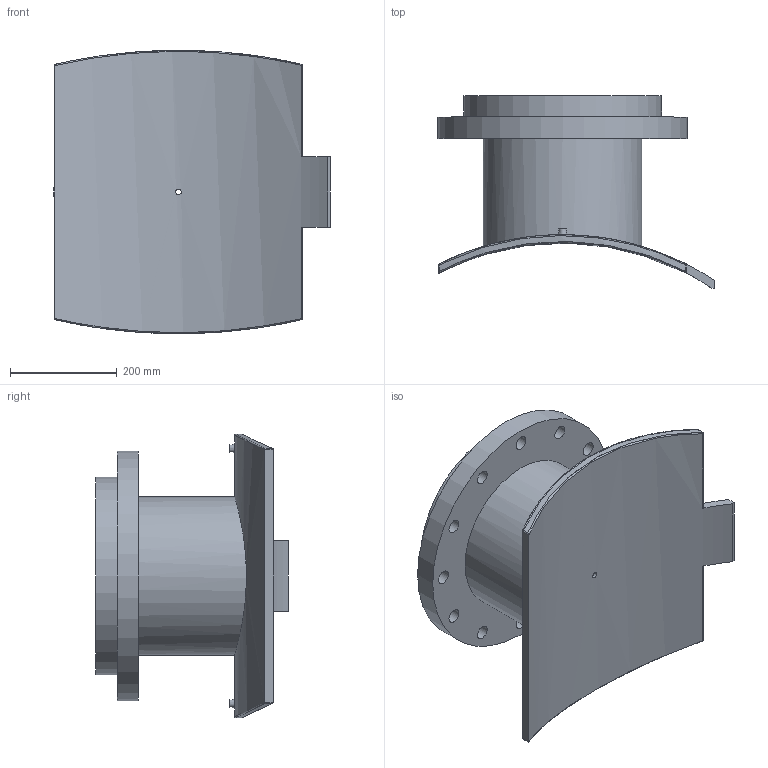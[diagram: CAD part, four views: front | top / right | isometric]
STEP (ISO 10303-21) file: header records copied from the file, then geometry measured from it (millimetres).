
FILE_DESCRIPTION(/* description */ ('PLASSON FLANGED BRANCH SADDLE 1000X300'),/* implementation_level */ '2;1');
FILE_NAME(/* name */ 'C:\Dropbox\KIMPROJECTS-Inventor 2019\99-16-3568-Processing\ElectroFusion Fittings\495904_495903\stp\4959031000300T.stp',/* time_stamp */ '2024-04-03T21:05:33+02:00',/* author */ ('KIM'),/* organization */ (''),/* preprocessor_version */ 'ST-DEVELOPER v17.2',/* originating_system */ 'Autodesk Inventor 2019',/* authorisation */ '');
FILE_SCHEMA (('AUTOMOTIVE_DESIGN { 1 0 10303 214 3 1 1 }'));
Length unit declared in the file: millimetre
Products named in the file (1): 4959031000300T
Bounding box: 517.3 x 360.25 x 529.96 mm (x, y, z)
Volume: 13798719.1 mm3; surface area: 1287697.7 mm2
Topology: 1 solids, 1 shells, 62 faces, 163 edges, 126 vertices
Faces by surface type: cylinder 35, plane 17, sphere 4, bspline 4, cone 2
Full cylindrical faces by diameter (mm): 4 x2, 10 x2, 10.4 x1, 16 x1, 26 x12, 257 x1, 296 x1, 370 x1, 467 x1
Entity records: 2599 total; most frequent: CARTESIAN_POINT 971, DIRECTION 325, ORIENTED_EDGE 298, EDGE_CURVE 149, AXIS2_PLACEMENT_3D 137, VERTEX_POINT 100, EDGE_LOOP 99, CIRCLE 78
